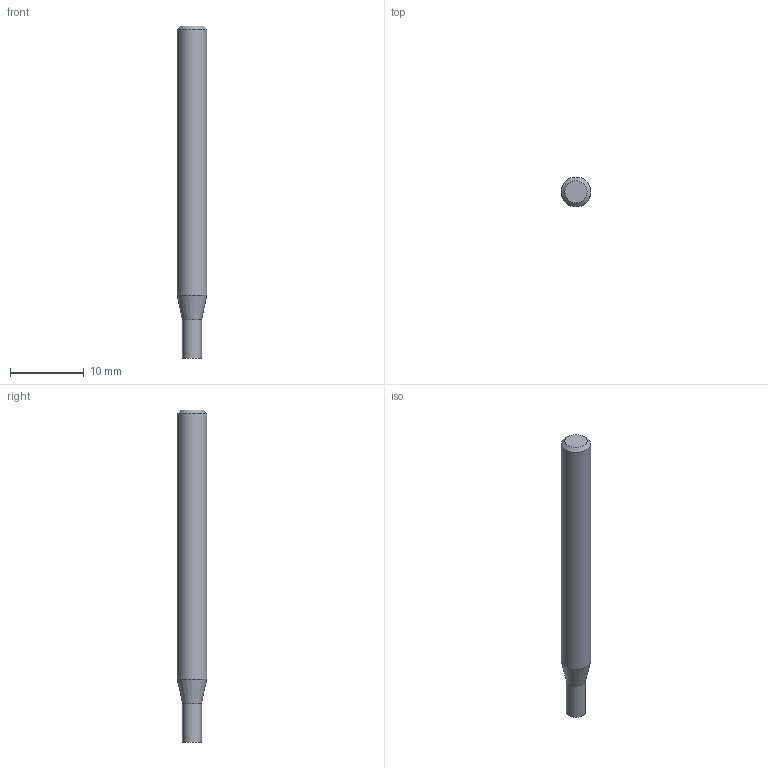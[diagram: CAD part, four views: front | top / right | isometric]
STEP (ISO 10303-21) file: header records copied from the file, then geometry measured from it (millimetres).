
FILE_DESCRIPTION((''),'2;1');
FILE_NAME('C:\Users\nsx150\AppData\Local\Temp\Mastercam 2021\E36A1X9CCL\TEMP.step','2023-04-21T15:12:34',(''),(''),'STEP Write','Mastercam 2021 ... CNC Software, Inc.','');
FILE_SCHEMA(('AUTOMOTIVE_DESIGN'));
Length unit declared in the file: millimetre
Products named in the file (1): None
Bounding box: 4 x 4 x 45 mm (x, y, z)
Volume: 513.5 mm3; surface area: 560.6 mm2
Topology: 2 solids, 2 shells, 8 faces, 10 edges, 6 vertices
Faces by surface type: plane 4, cylinder 2, cone 2
Full cylindrical faces by diameter (mm): 2.6 x1, 4 x1
Entity records: 190 total; most frequent: DIRECTION 32, CARTESIAN_POINT 22, AXIS2_PLACEMENT_3D 16, ORIENTED_EDGE 12, EDGE_LOOP 12, STYLED_ITEM 11, ADVANCED_FACE 8, VERTEX_POINT 6
